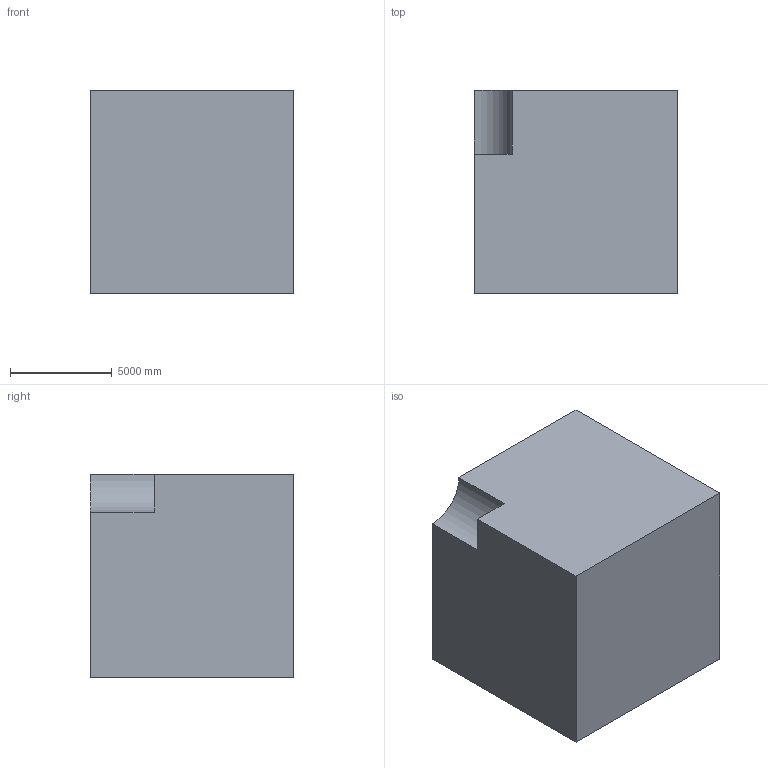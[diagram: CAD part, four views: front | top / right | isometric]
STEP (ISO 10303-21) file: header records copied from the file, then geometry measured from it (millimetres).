
FILE_DESCRIPTION (( 'STEP AP203' ), '1' );
FILE_NAME ('193.STEP', '2022-07-28T13:51:52', ( 'user' ), ( '' ), 'SwSTEP 2.0', 'SolidWorks 2021', '' );
FILE_SCHEMA (( 'CONFIG_CONTROL_DESIGN' ));
Length unit declared in the file: centimetre
Products named in the file (1): 193
Bounding box: 10000 x 10000 x 10000 mm (x, y, z)
Volume: 948296540279.1 mm3; surface area: 667348983.9 mm2
Topology: 1 solids, 1 shells, 11 faces, 24 edges, 16 vertices
Faces by surface type: plane 8, cylinder 3
Entity records: 381 total; most frequent: DIRECTION 54, CARTESIAN_POINT 52, ORIENTED_EDGE 48, EDGE_CURVE 24, AXIS2_PLACEMENT_3D 18, VECTOR 18, LINE 18, VERTEX_POINT 16
